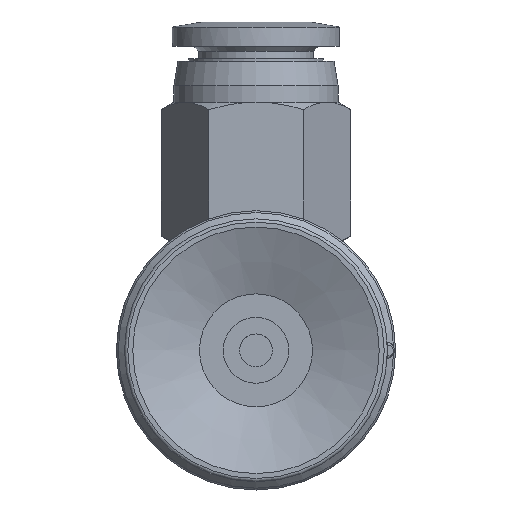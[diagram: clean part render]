
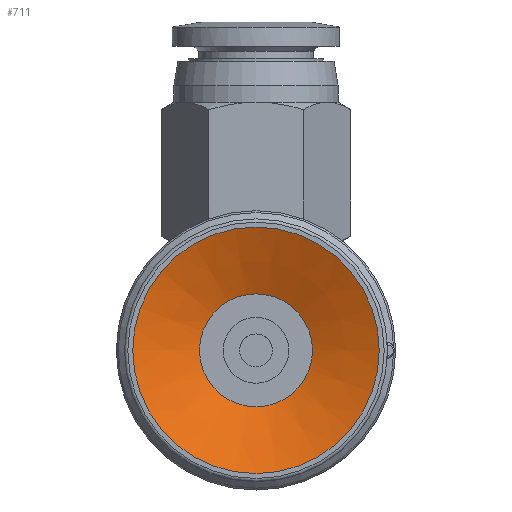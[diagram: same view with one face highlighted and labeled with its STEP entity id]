
A CAD part, front view. The second image highlights one B-rep face of the part: STEP entity #711.
In plain terms, the highlighted conical face has half-angle 67.5 degrees and reference radius 3.437 mm.
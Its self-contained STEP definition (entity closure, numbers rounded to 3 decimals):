
#711=ADVANCED_FACE('',(#1058,#1059),#1060,.F.);
#1058=FACE_BOUND('',#2514,.T.);
#1059=FACE_OUTER_BOUND('',#2515,.T.);
#1060=CONICAL_SURFACE('',#2516,3.437,1.178);
#2514=EDGE_LOOP('',(#3674));
#2515=EDGE_LOOP('',(#3675));
#2516=AXIS2_PLACEMENT_3D('',#3676,#3677,#3678);
#3674=ORIENTED_EDGE('',*,*,#4279,.F.);
#3675=ORIENTED_EDGE('',*,*,#4267,.T.);
#3676=CARTESIAN_POINT('',(0.0,0.0,1.683));
#3677=DIRECTION('',(0.0,0.,-1.0));
#3678=DIRECTION('',(0.0,1.0,0.));
#4267=EDGE_CURVE('',#4740,#4740,#4741,.T.);
#4279=EDGE_CURVE('',#4764,#4764,#4765,.T.);
#4740=VERTEX_POINT('',#5923);
#4741=CIRCLE('',#5924,7.5);
#4764=VERTEX_POINT('',#5947);
#4765=CIRCLE('',#5948,3.437);
#5923=CARTESIAN_POINT('',(-7.5,0.0,0.));
#5924=AXIS2_PLACEMENT_3D('',#6705,#6706,#6707);
#5947=CARTESIAN_POINT('',(-3.437,0.0,1.683));
#5948=AXIS2_PLACEMENT_3D('',#6741,#6742,#6743);
#6705=CARTESIAN_POINT('',(0.0,0.0,0.));
#6706=DIRECTION('',(0.0,0.,-1.0));
#6707=DIRECTION('',(0.0,1.0,0.));
#6741=CARTESIAN_POINT('',(0.0,0.0,1.683));
#6742=DIRECTION('',(0.0,0.,-1.0));
#6743=DIRECTION('',(0.0,1.0,0.));
